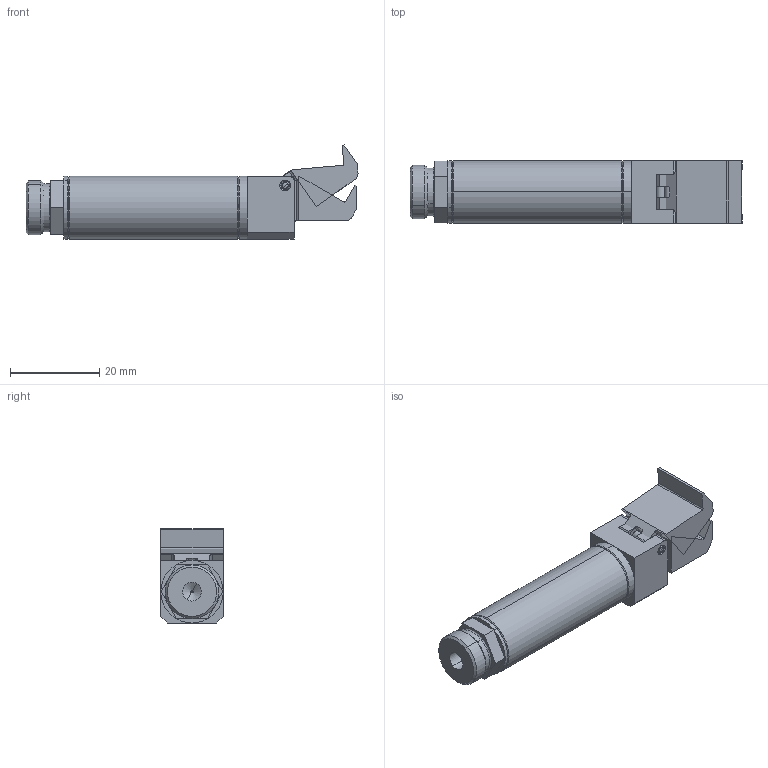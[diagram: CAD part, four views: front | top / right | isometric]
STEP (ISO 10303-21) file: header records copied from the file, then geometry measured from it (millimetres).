
FILE_DESCRIPTION (( 'STEP AP214' ), '1' );
FILE_NAME ('GFA14-35-C.STEP', '2019-11-13T00:57:14', ( '微软用户' ), ( '微软中国' ), 'SwSTEP 2.0', 'SolidWorks 2016', '' );
FILE_SCHEMA (( 'AUTOMOTIVE_DESIGN' ));
Length unit declared in the file: millimetre
Products named in the file (1): GFA14-35-C
Bounding box: 74.3 x 14 x 21.05 mm (x, y, z)
Volume: 8382.8 mm3; surface area: 8960.2 mm2
Topology: 9 solids, 9 shells, 273 faces, 653 edges, 398 vertices
Faces by surface type: cylinder 94, plane 87, cone 74, torus 10, bspline 4, sphere 4
Entity records: 11639 total; most frequent: CARTESIAN_POINT 2016, DIRECTION 1441, ORIENTED_EDGE 1298, EDGE_CURVE 649, AXIS2_PLACEMENT_3D 542, VERTEX_POINT 398, LINE 357, VECTOR 357
